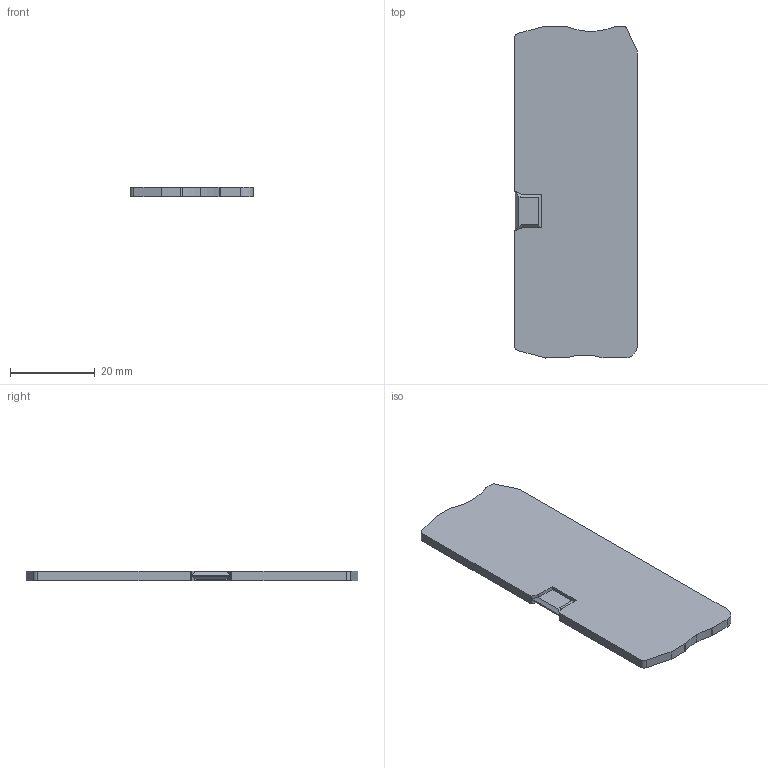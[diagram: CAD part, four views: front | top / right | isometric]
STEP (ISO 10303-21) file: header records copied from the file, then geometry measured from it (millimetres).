
FILE_DESCRIPTION( ('This file contains a STEP AP42 implementation' ,'as created by ZW3D STEP Interface translator.') ,'2;1' );
FILE_NAME( 'D-RPV4-QUATTRO傷啣耀倰.stp' ,'23 529.142459', (''), ('ZWCAD Software Co.'), 'Version 1.0', 'ZW3D to STEP translator', '' );
FILE_SCHEMA(('AUTOMOTIVE_DESIGN { 1 0 10303 214 1 1 1 1 }'));
Length unit declared in the file: millimetre
Products named in the file (2): 0; D-RPV4-QUATTRO傷啣耀倰
Bounding box: 29.05 x 78.5 x 2.2 mm (x, y, z)
Volume: 4889.8 mm3; surface area: 4978.1 mm2
Topology: 1 solids, 1 shells, 58 faces, 152 edges, 96 vertices
Faces by surface type: plane 35, cylinder 19, bspline 2, cone 2
Entity records: 1862 total; most frequent: CARTESIAN_POINT 326, DIRECTION 304, ORIENTED_EDGE 304, EDGE_CURVE 152, VECTOR 110, LINE 110, AXIS2_PLACEMENT_3D 97, VERTEX_POINT 96
